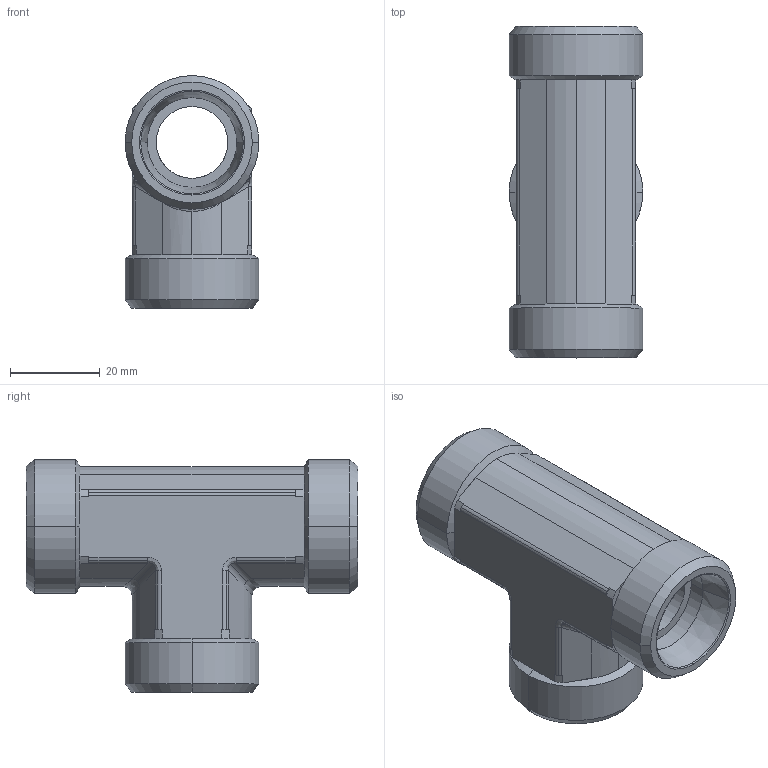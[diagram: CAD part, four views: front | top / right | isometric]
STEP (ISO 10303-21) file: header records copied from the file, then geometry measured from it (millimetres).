
FILE_DESCRIPTION((''),'2;1');
FILE_NAME('103920.stp','2007-10-31T13:07:56',(''),(''),'AutoCAD STEP 2000i','AutoCAD 2000i',', , ');
FILE_SCHEMA(('CONFIG_CONTROL_DESIGN'));
Length unit declared in the file: millimetre
Products named in the file (2): 103920.0; 3091#0
Assembly tree (1 placements, depth 2):
  103920.0
    3091#0
Bounding box: 29.82 x 74 x 51.91 mm (x, y, z)
Volume: 37114.2 mm3; surface area: 15306.8 mm2
Topology: 1 solids, 1 shells, 139 faces, 346 edges, 211 vertices
Faces by surface type: cylinder 67, plane 42, cone 18, bspline 12
Entity records: 5074 total; most frequent: CARTESIAN_POINT 1548, DIRECTION 785, ORIENTED_EDGE 692, EDGE_CURVE 346, AXIS2_PLACEMENT_3D 310, VERTEX_POINT 211, VECTOR 165, LINE 165
